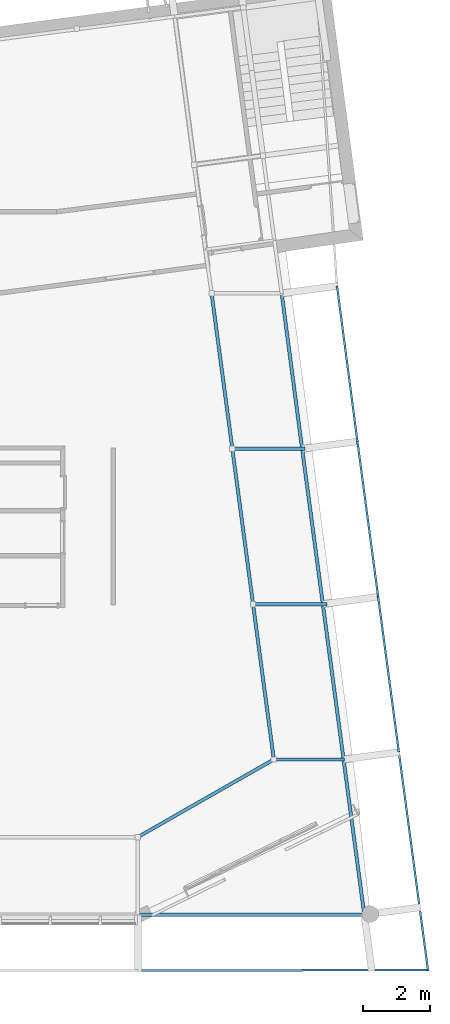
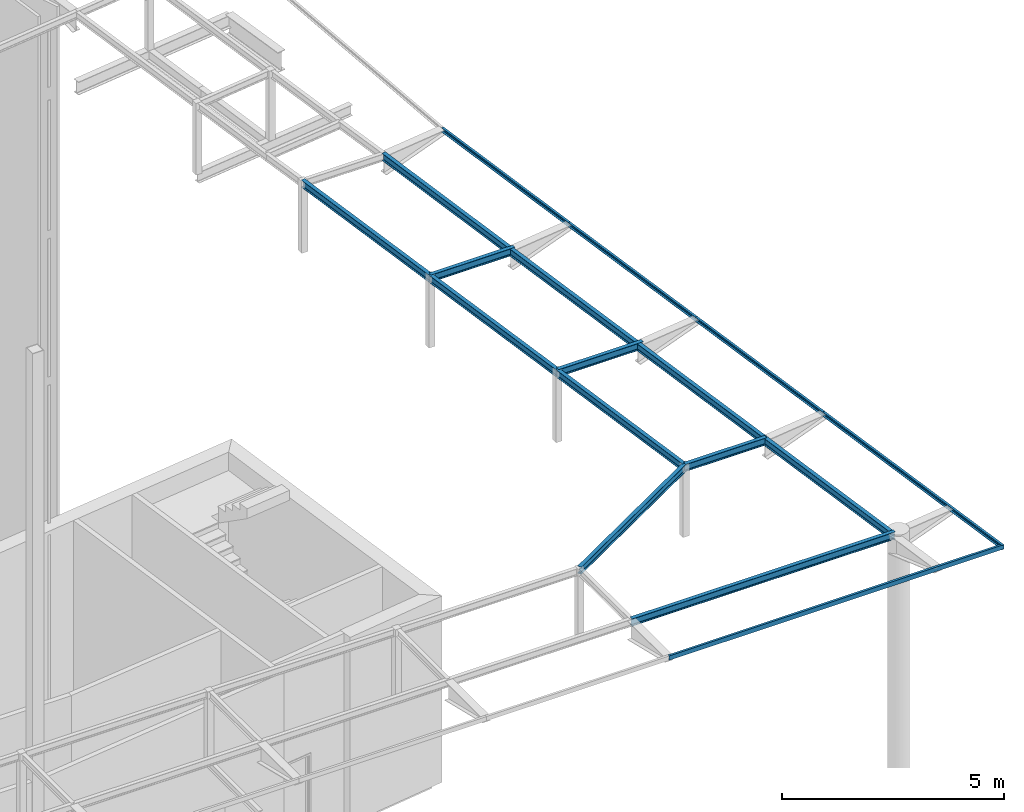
# One storey, part 16 of 40: 17 beams.
"""IFC2X3 building model written with IfcOpenShell, lengths in metres."""

from ifc_helpers import new_model, entity, si_unit, converted_unit, money_unit, point, direction, frame, frame_2d, origin_with_axes, place, context, subcontext, project, spatial, polyline, circle_curve, parameter, trimmed, segment, composite_curve, outline, extrude, material, type_object, element, save


model = new_model("IFC2X3")

# Units and contexts
model_context = context("Model", 3, precision=1e-05, world=origin_with_axes(), true_north=direction((0.0, 1.0)))
body_context = subcontext(model_context, "Body", "Model", "MODEL_VIEW")
ifc_project = project(units=[si_unit("LENGTHUNIT", "METRE"), si_unit("AREAUNIT", "SQUARE_METRE"), si_unit("VOLUMEUNIT", "CUBIC_METRE"), converted_unit("PLANEANGLEUNIT", "DEGREE", entity("IfcPlaneAngleMeasure", 0.0174532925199), si_unit("PLANEANGLEUNIT", "RADIAN"), dimensions=[0, 0, 0, 0, 0, 0, 0]), si_unit("SOLIDANGLEUNIT", "STERADIAN"), money_unit("EUR"), converted_unit("TIMEUNIT", "Year", entity("IfcTimeMeasure", 31556926.0), si_unit("TIMEUNIT", "SECOND"), dimensions=[0, 0, 0, 0, 0, 0, 0]), si_unit("MASSUNIT", "GRAM"), si_unit("THERMODYNAMICTEMPERATUREUNIT", "DEGREE_CELSIUS"), si_unit("LUMINOUSINTENSITYUNIT", "LUMEN")], contexts=[model_context])

# Site, building, storey
site_placement = place(None, origin_with_axes())
site = spatial("IfcSite", under=ifc_project, at=site_placement, Name="Undefined", CompositionType="ELEMENT")
building_placement = place(site_placement, origin_with_axes())
building = spatial("IfcBuilding", under=site, at=building_placement, Name="Undefined", CompositionType="ELEMENT")
storey_placement = place(building_placement, origin_with_axes())
storey = spatial("IfcBuildingStorey", under=building, at=storey_placement, Name="Rez de chauss\x8ee", CompositionType="ELEMENT", Elevation=0.0)

# Beams
ifc_material = material(Name="STEEL/S235JRG2 3386696625")
beam_type_1 = type_object("IfcBeamType", Name="IPE200", PredefinedType="NOTDEFINED")
beam_1_placement = place(storey_placement, frame((65.9105599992, 18.6012900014, 19.025), z_axis=(0.0, 0.0, 1.0), x_axis=(-0.991488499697, -0.13019429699, 0.0)))
element("IfcBeam", 1, at=beam_1_placement, inside=storey, type_object=beam_type_1, material=ifc_material, Name="Poutre", ObjectType="BEAM", context=body_context, shape_type="SweptSolid", body=[
    extrude(outline(composite_curve([segment(polyline([(0.05, -0.1), (0.05, -0.0915), (0.0147999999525, -0.0915)]), True, "CONTINUOUS"), segment(trimmed(circle_curve(frame_2d((0.0147999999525, -0.0795), x_axis=(-1.0, 0.0)), 0.012), [point((0.0147999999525, -0.0915)), parameter(90.0)], [point((0.0027999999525, -0.0795)), parameter(0.0)], False, "CARTESIAN"), True, "CONTINUOUS"), segment(polyline([(0.0027999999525, -0.0795), (0.0027999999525, 0.0795)]), True, "CONTINUOUS"), segment(trimmed(circle_curve(frame_2d((0.0147999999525, 0.0795), x_axis=(0.0, 1.0)), 0.012), [point((0.0027999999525, 0.0795)), parameter(90.0)], [point((0.0147999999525, 0.0915)), parameter(0.0)], False, "CARTESIAN"), True, "CONTINUOUS"), segment(polyline([(0.0147999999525, 0.0915), (0.05, 0.0915), (0.05, 0.1), (-0.05, 0.1), (-0.05, 0.0915), (-0.0147999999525, 0.0915)]), True, "CONTINUOUS"), segment(trimmed(circle_curve(frame_2d((-0.0147999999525, 0.0795), x_axis=(1.0, 0.0)), 0.012), [point((-0.0147999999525, 0.0915)), parameter(90.0)], [point((-0.0027999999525, 0.0795)), parameter(0.0)], False, "CARTESIAN"), True, "CONTINUOUS"), segment(polyline([(-0.0027999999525, 0.0795), (-0.0027999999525, -0.0795)]), True, "CONTINUOUS"), segment(trimmed(circle_curve(frame_2d((-0.0147999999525, -0.0795), x_axis=(0.0, -1.0)), 0.012), [point((-0.0027999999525, -0.0795)), parameter(90.0)], [point((-0.0147999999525, -0.0915)), parameter(0.0)], False, "CARTESIAN"), True, "CONTINUOUS"), segment(polyline([(-0.0147999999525, -0.0915), (-0.05, -0.0915), (-0.05, -0.1), (0.05, -0.1)]), True, "CONTINUOUS")], self_intersect=False)), frame((0.0, 4.69121931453, 0.0), z_axis=(0.0, -1.0, 0.0), x_axis=(1.0, 0.0, 0.0)), (0.0, 0.0, 1.0), 4.69121931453),
])
for number, where, z_axis, x_axis, name in (
    (2, (66.5213299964, 13.9500000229, 19.025), (0.0, 0.0, 1.0), (-0.991215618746, -0.132255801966, 0.0), "Poutre"),
    (3, (67.1417699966, 9.3000000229, 19.025), (0.0, 0.0, 1.0), (-0.991215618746, -0.132255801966, 0.0), "Poutre"),
):
    element("IfcBeam", number, at=place(storey_placement, frame(where, z_axis=z_axis, x_axis=x_axis)), inside=storey, type_object=beam_type_1, material=ifc_material, Name=name, ObjectType="BEAM", context=body_context, shape_type="SweptSolid", body=[
        extrude(outline(composite_curve([segment(polyline([(0.05, -0.1), (0.05, -0.0915), (0.0147999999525, -0.0915)]), True, "CONTINUOUS"), segment(trimmed(circle_curve(frame_2d((0.0147999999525, -0.0795), x_axis=(-1.0, 0.0)), 0.012), [point((0.0147999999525, -0.0915)), parameter(90.0)], [point((0.0027999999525, -0.0795)), parameter(0.0)], False, "CARTESIAN"), True, "CONTINUOUS"), segment(polyline([(0.0027999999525, -0.0795), (0.0027999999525, 0.0795)]), True, "CONTINUOUS"), segment(trimmed(circle_curve(frame_2d((0.0147999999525, 0.0795), x_axis=(0.0, 1.0)), 0.012), [point((0.0027999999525, 0.0795)), parameter(90.0)], [point((0.0147999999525, 0.0915)), parameter(0.0)], False, "CARTESIAN"), True, "CONTINUOUS"), segment(polyline([(0.0147999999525, 0.0915), (0.05, 0.0915), (0.05, 0.1), (-0.05, 0.1), (-0.05, 0.0915), (-0.0147999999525, 0.0915)]), True, "CONTINUOUS"), segment(trimmed(circle_curve(frame_2d((-0.0147999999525, 0.0795), x_axis=(1.0, 0.0)), 0.012), [point((-0.0147999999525, 0.0915)), parameter(90.0)], [point((-0.0027999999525, 0.0795)), parameter(0.0)], False, "CARTESIAN"), True, "CONTINUOUS"), segment(polyline([(-0.0027999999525, 0.0795), (-0.0027999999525, -0.0795)]), True, "CONTINUOUS"), segment(trimmed(circle_curve(frame_2d((-0.0147999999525, -0.0795), x_axis=(0.0, -1.0)), 0.012), [point((-0.0027999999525, -0.0795)), parameter(90.0)], [point((-0.0147999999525, -0.0915)), parameter(0.0)], False, "CARTESIAN"), True, "CONTINUOUS"), segment(polyline([(-0.0147999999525, -0.0915), (-0.05, -0.0915), (-0.05, -0.1), (0.05, -0.1)]), True, "CONTINUOUS")], self_intersect=False)), frame((0.0, 4.69120941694, 0.0), z_axis=(0.0, -1.0, 0.0), x_axis=(1.0, 0.0, 0.0)), (0.0, 0.0, 1.0), 4.69120941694),
    ])
beam_2_placement = place(storey_placement, frame((65.0532705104, 9.29999997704, 19.025), z_axis=(0.0, 0.0, 1.0), x_axis=(0.991215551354, 0.132256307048, 0.0)))
element("IfcBeam", 4, at=beam_2_placement, inside=storey, type_object=beam_type_1, material=ifc_material, Name="Poutre", ObjectType="BEAM", context=body_context, shape_type="SweptSolid", body=[
    extrude(outline(composite_curve([segment(polyline([(0.05, -0.1), (0.05, -0.0915), (0.0147999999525, -0.0915)]), True, "CONTINUOUS"), segment(trimmed(circle_curve(frame_2d((0.0147999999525, -0.0795), x_axis=(-1.0, 0.0)), 0.012), [point((0.0147999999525, -0.0915)), parameter(90.0)], [point((0.0027999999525, -0.0795)), parameter(0.0)], False, "CARTESIAN"), True, "CONTINUOUS"), segment(polyline([(0.0027999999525, -0.0795), (0.0027999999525, 0.0795)]), True, "CONTINUOUS"), segment(trimmed(circle_curve(frame_2d((0.0147999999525, 0.0795), x_axis=(0.0, 1.0)), 0.012), [point((0.0027999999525, 0.0795)), parameter(90.0)], [point((0.0147999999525, 0.0915)), parameter(0.0)], False, "CARTESIAN"), True, "CONTINUOUS"), segment(polyline([(0.0147999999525, 0.0915), (0.05, 0.0915), (0.05, 0.1), (-0.05, 0.1), (-0.05, 0.0915), (-0.0147999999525, 0.0915)]), True, "CONTINUOUS"), segment(trimmed(circle_curve(frame_2d((-0.0147999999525, 0.0795), x_axis=(1.0, 0.0)), 0.012), [point((-0.0147999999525, 0.0915)), parameter(90.0)], [point((-0.0027999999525, 0.0795)), parameter(0.0)], False, "CARTESIAN"), True, "CONTINUOUS"), segment(polyline([(-0.0027999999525, 0.0795), (-0.0027999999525, -0.0795)]), True, "CONTINUOUS"), segment(trimmed(circle_curve(frame_2d((-0.0147999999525, -0.0795), x_axis=(0.0, -1.0)), 0.012), [point((-0.0027999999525, -0.0795)), parameter(90.0)], [point((-0.0147999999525, -0.0915)), parameter(0.0)], False, "CARTESIAN"), True, "CONTINUOUS"), segment(polyline([(-0.0147999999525, -0.0915), (-0.05, -0.0915), (-0.05, -0.1), (0.05, -0.1)]), True, "CONTINUOUS")], self_intersect=False)), frame((0.0, 4.69120988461, 0.0), z_axis=(0.0, -1.0, 0.0), x_axis=(1.0, 0.0, 0.0)), (0.0, 0.0, 1.0), 4.69120988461),
])
beam_3_placement = place(storey_placement, frame((65.6737139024, 4.64999987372, 19.025), z_axis=(0.0, 0.0, 1.0), x_axis=(0.991215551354, 0.132256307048, 0.0)))
element("IfcBeam", 5, at=beam_3_placement, inside=storey, type_object=beam_type_1, material=ifc_material, Name="Poutre", ObjectType="BEAM", context=body_context, shape_type="SweptSolid", body=[
    extrude(outline(composite_curve([segment(polyline([(0.05, -0.1), (0.05, -0.0915), (0.0147999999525, -0.0915)]), True, "CONTINUOUS"), segment(trimmed(circle_curve(frame_2d((0.0147999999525, -0.0795), x_axis=(-1.0, 0.0)), 0.012), [point((0.0147999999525, -0.0915)), parameter(90.0)], [point((0.0027999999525, -0.0795)), parameter(0.0)], False, "CARTESIAN"), True, "CONTINUOUS"), segment(polyline([(0.0027999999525, -0.0795), (0.0027999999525, 0.0795)]), True, "CONTINUOUS"), segment(trimmed(circle_curve(frame_2d((0.0147999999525, 0.0795), x_axis=(0.0, 1.0)), 0.012), [point((0.0027999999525, 0.0795)), parameter(90.0)], [point((0.0147999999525, 0.0915)), parameter(0.0)], False, "CARTESIAN"), True, "CONTINUOUS"), segment(polyline([(0.0147999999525, 0.0915), (0.05, 0.0915), (0.05, 0.1), (-0.05, 0.1), (-0.05, 0.0915), (-0.0147999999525, 0.0915)]), True, "CONTINUOUS"), segment(trimmed(circle_curve(frame_2d((-0.0147999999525, 0.0795), x_axis=(1.0, 0.0)), 0.012), [point((-0.0147999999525, 0.0915)), parameter(90.0)], [point((-0.0027999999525, 0.0795)), parameter(0.0)], False, "CARTESIAN"), True, "CONTINUOUS"), segment(polyline([(-0.0027999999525, 0.0795), (-0.0027999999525, -0.0795)]), True, "CONTINUOUS"), segment(trimmed(circle_curve(frame_2d((-0.0147999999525, -0.0795), x_axis=(0.0, -1.0)), 0.012), [point((-0.0027999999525, -0.0795)), parameter(90.0)], [point((-0.0147999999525, -0.0915)), parameter(0.0)], False, "CARTESIAN"), True, "CONTINUOUS"), segment(polyline([(-0.0147999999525, -0.0915), (-0.05, -0.0915), (-0.05, -0.1), (0.05, -0.1)]), True, "CONTINUOUS")], self_intersect=False)), frame((0.0, 4.69120996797, 0.0), z_axis=(0.0, -1.0, 0.0), x_axis=(1.0, 0.0, 0.0)), (0.0, 0.0, 1.0), 4.69120996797),
])
beam_4_placement = place(storey_placement, frame((64.4328269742, 13.949999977, 19.025), z_axis=(0.0, 0.0, 1.0), x_axis=(0.991215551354, 0.132256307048, 0.0)))
element("IfcBeam", 6, at=beam_4_placement, inside=storey, type_object=beam_type_1, material=ifc_material, Name="Poutre", ObjectType="BEAM", context=body_context, shape_type="SweptSolid", body=[
    extrude(outline(composite_curve([segment(polyline([(0.05, -0.1), (0.05, -0.0915), (0.0147999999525, -0.0915)]), True, "CONTINUOUS"), segment(trimmed(circle_curve(frame_2d((0.0147999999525, -0.0795), x_axis=(-1.0, 0.0)), 0.012), [point((0.0147999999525, -0.0915)), parameter(90.0)], [point((0.0027999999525, -0.0795)), parameter(0.0)], False, "CARTESIAN"), True, "CONTINUOUS"), segment(polyline([(0.0027999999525, -0.0795), (0.0027999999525, 0.0795)]), True, "CONTINUOUS"), segment(trimmed(circle_curve(frame_2d((0.0147999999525, 0.0795), x_axis=(0.0, 1.0)), 0.012), [point((0.0027999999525, 0.0795)), parameter(90.0)], [point((0.0147999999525, 0.0915)), parameter(0.0)], False, "CARTESIAN"), True, "CONTINUOUS"), segment(polyline([(0.0147999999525, 0.0915), (0.05, 0.0915), (0.05, 0.1), (-0.05, 0.1), (-0.05, 0.0915), (-0.0147999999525, 0.0915)]), True, "CONTINUOUS"), segment(trimmed(circle_curve(frame_2d((-0.0147999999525, 0.0795), x_axis=(1.0, 0.0)), 0.012), [point((-0.0147999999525, 0.0915)), parameter(90.0)], [point((-0.0027999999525, 0.0795)), parameter(0.0)], False, "CARTESIAN"), True, "CONTINUOUS"), segment(polyline([(-0.0027999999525, 0.0795), (-0.0027999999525, -0.0795)]), True, "CONTINUOUS"), segment(trimmed(circle_curve(frame_2d((-0.0147999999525, -0.0795), x_axis=(0.0, -1.0)), 0.012), [point((-0.0027999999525, -0.0795)), parameter(90.0)], [point((-0.0147999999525, -0.0915)), parameter(0.0)], False, "CARTESIAN"), True, "CONTINUOUS"), segment(polyline([(-0.0147999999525, -0.0915), (-0.05, -0.0915), (-0.05, -0.1), (0.05, -0.1)]), True, "CONTINUOUS")], self_intersect=False)), frame((0.0, 4.69220939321, 0.0), z_axis=(0.0, -1.0, 0.0), x_axis=(1.0, 0.0, 0.0)), (0.0, 0.0, 1.0), 4.69220939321),
])
beam_5_placement = place(storey_placement, frame((65.6737139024, 4.64999987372, 19.025), z_axis=(0.0, 0.0, 1.0), x_axis=(0.0, -1.0, 0.0)))
element("IfcBeam", 7, at=beam_5_placement, inside=storey, type_object=beam_type_1, material=ifc_material, Name="Poutre", ObjectType="BEAM", context=body_context, shape_type="SweptSolid", body=[
    extrude(outline(composite_curve([segment(polyline([(0.05, -0.1), (0.05, -0.0915), (0.0147999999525, -0.0915)]), True, "CONTINUOUS"), segment(trimmed(circle_curve(frame_2d((0.0147999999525, -0.0795), x_axis=(-1.0, 0.0)), 0.012), [point((0.0147999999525, -0.0915)), parameter(90.0)], [point((0.0027999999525, -0.0795)), parameter(0.0)], False, "CARTESIAN"), True, "CONTINUOUS"), segment(polyline([(0.0027999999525, -0.0795), (0.0027999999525, 0.0795)]), True, "CONTINUOUS"), segment(trimmed(circle_curve(frame_2d((0.0147999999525, 0.0795), x_axis=(0.0, 1.0)), 0.012), [point((0.0027999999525, 0.0795)), parameter(90.0)], [point((0.0147999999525, 0.0915)), parameter(0.0)], False, "CARTESIAN"), True, "CONTINUOUS"), segment(polyline([(0.0147999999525, 0.0915), (0.05, 0.0915), (0.05, 0.1), (-0.05, 0.1), (-0.05, 0.0915), (-0.0147999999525, 0.0915)]), True, "CONTINUOUS"), segment(trimmed(circle_curve(frame_2d((-0.0147999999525, 0.0795), x_axis=(1.0, 0.0)), 0.012), [point((-0.0147999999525, 0.0915)), parameter(90.0)], [point((-0.0027999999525, 0.0795)), parameter(0.0)], False, "CARTESIAN"), True, "CONTINUOUS"), segment(polyline([(-0.0027999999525, 0.0795), (-0.0027999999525, -0.0795)]), True, "CONTINUOUS"), segment(trimmed(circle_curve(frame_2d((-0.0147999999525, -0.0795), x_axis=(0.0, -1.0)), 0.012), [point((-0.0027999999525, -0.0795)), parameter(90.0)], [point((-0.0147999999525, -0.0915)), parameter(0.0)], False, "CARTESIAN"), True, "CONTINUOUS"), segment(polyline([(-0.0147999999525, -0.0915), (-0.05, -0.0915), (-0.05, -0.1), (0.05, -0.1)]), True, "CONTINUOUS")], self_intersect=False)), frame((0.0, 2.11397689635, 0.0), z_axis=(0.0, -1.0, 0.0), x_axis=(1.0, 0.0, 0.0)), (0.0, 0.0, 1.0), 2.11397689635),
])
beam_6_placement = place(storey_placement, frame((64.4328269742, 13.949999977, 19.025), z_axis=(0.0, 0.0, 1.0), x_axis=(0.0, -1.0, 0.0)))
element("IfcBeam", 8, at=beam_6_placement, inside=storey, type_object=beam_type_1, material=ifc_material, Name="Poutre", ObjectType="BEAM", context=body_context, shape_type="SweptSolid", body=[
    extrude(outline(composite_curve([segment(polyline([(0.05, -0.1), (0.05, -0.0915), (0.0147999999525, -0.0915)]), True, "CONTINUOUS"), segment(trimmed(circle_curve(frame_2d((0.0147999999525, -0.0795), x_axis=(-1.0, 0.0)), 0.012), [point((0.0147999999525, -0.0915)), parameter(90.0)], [point((0.0027999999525, -0.0795)), parameter(0.0)], False, "CARTESIAN"), True, "CONTINUOUS"), segment(polyline([(0.0027999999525, -0.0795), (0.0027999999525, 0.0795)]), True, "CONTINUOUS"), segment(trimmed(circle_curve(frame_2d((0.0147999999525, 0.0795), x_axis=(0.0, 1.0)), 0.012), [point((0.0027999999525, 0.0795)), parameter(90.0)], [point((0.0147999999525, 0.0915)), parameter(0.0)], False, "CARTESIAN"), True, "CONTINUOUS"), segment(polyline([(0.0147999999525, 0.0915), (0.05, 0.0915), (0.05, 0.1), (-0.05, 0.1), (-0.05, 0.0915), (-0.0147999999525, 0.0915)]), True, "CONTINUOUS"), segment(trimmed(circle_curve(frame_2d((-0.0147999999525, 0.0795), x_axis=(1.0, 0.0)), 0.012), [point((-0.0147999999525, 0.0915)), parameter(90.0)], [point((-0.0027999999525, 0.0795)), parameter(0.0)], False, "CARTESIAN"), True, "CONTINUOUS"), segment(polyline([(-0.0027999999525, 0.0795), (-0.0027999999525, -0.0795)]), True, "CONTINUOUS"), segment(trimmed(circle_curve(frame_2d((-0.0147999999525, -0.0795), x_axis=(0.0, -1.0)), 0.012), [point((-0.0027999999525, -0.0795)), parameter(90.0)], [point((-0.0147999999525, -0.0915)), parameter(0.0)], False, "CARTESIAN"), True, "CONTINUOUS"), segment(polyline([(-0.0147999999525, -0.0915), (-0.05, -0.0915), (-0.05, -0.1), (0.05, -0.1)]), True, "CONTINUOUS")], self_intersect=False)), frame((0.0, 2.17911758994, 0.0), z_axis=(0.0, -1.0, 0.0), x_axis=(1.0, 0.0, 0.0)), (0.0, 0.0, 1.0), 2.17911758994),
])
beam_7_placement = place(storey_placement, frame((65.0532705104, 9.29999997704, 19.025), z_axis=(0.0, 0.0, 1.0), x_axis=(0.0, -1.0, 0.0)))
element("IfcBeam", 9, at=beam_7_placement, inside=storey, type_object=beam_type_1, material=ifc_material, Name="Poutre", ObjectType="BEAM", context=body_context, shape_type="SweptSolid", body=[
    extrude(outline(composite_curve([segment(polyline([(0.05, -0.1), (0.05, -0.0915), (0.0147999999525, -0.0915)]), True, "CONTINUOUS"), segment(trimmed(circle_curve(frame_2d((0.0147999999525, -0.0795), x_axis=(-1.0, 0.0)), 0.012), [point((0.0147999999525, -0.0915)), parameter(90.0)], [point((0.0027999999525, -0.0795)), parameter(0.0)], False, "CARTESIAN"), True, "CONTINUOUS"), segment(polyline([(0.0027999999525, -0.0795), (0.0027999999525, 0.0795)]), True, "CONTINUOUS"), segment(trimmed(circle_curve(frame_2d((0.0147999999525, 0.0795), x_axis=(0.0, 1.0)), 0.012), [point((0.0027999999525, 0.0795)), parameter(90.0)], [point((0.0147999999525, 0.0915)), parameter(0.0)], False, "CARTESIAN"), True, "CONTINUOUS"), segment(polyline([(0.0147999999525, 0.0915), (0.05, 0.0915), (0.05, 0.1), (-0.05, 0.1), (-0.05, 0.0915), (-0.0147999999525, 0.0915)]), True, "CONTINUOUS"), segment(trimmed(circle_curve(frame_2d((-0.0147999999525, 0.0795), x_axis=(1.0, 0.0)), 0.012), [point((-0.0147999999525, 0.0915)), parameter(90.0)], [point((-0.0027999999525, 0.0795)), parameter(0.0)], False, "CARTESIAN"), True, "CONTINUOUS"), segment(polyline([(-0.0027999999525, 0.0795), (-0.0027999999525, -0.0795)]), True, "CONTINUOUS"), segment(trimmed(circle_curve(frame_2d((-0.0147999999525, -0.0795), x_axis=(0.0, -1.0)), 0.012), [point((-0.0027999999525, -0.0795)), parameter(90.0)], [point((-0.0147999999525, -0.0915)), parameter(0.0)], False, "CARTESIAN"), True, "CONTINUOUS"), segment(polyline([(-0.0147999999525, -0.0915), (-0.05, -0.0915), (-0.05, -0.1), (0.05, -0.1)]), True, "CONTINUOUS")], self_intersect=False)), frame((0.0, 2.21218590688, 0.0), z_axis=(0.0, -1.0, 0.0), x_axis=(1.0, 0.0, 0.0)), (0.0, 0.0, 1.0), 2.21218590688),
])
beam_8_placement = place(storey_placement, frame((61.5999999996, 2.32500000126, 19.025), z_axis=(0.0, 0.0, 1.0), x_axis=(0.495682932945, -0.868503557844, 0.0)))
element("IfcBeam", 10, at=beam_8_placement, inside=storey, type_object=beam_type_1, material=ifc_material, Name="Poutre", ObjectType="BEAM", context=body_context, shape_type="SweptSolid", body=[
    extrude(outline(composite_curve([segment(polyline([(0.05, -0.1), (0.05, -0.0915), (0.0147999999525, -0.0915)]), True, "CONTINUOUS"), segment(trimmed(circle_curve(frame_2d((0.0147999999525, -0.0795), x_axis=(-1.0, 0.0)), 0.012), [point((0.0147999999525, -0.0915)), parameter(90.0)], [point((0.0027999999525, -0.0795)), parameter(0.0)], False, "CARTESIAN"), True, "CONTINUOUS"), segment(polyline([(0.0027999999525, -0.0795), (0.0027999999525, 0.0795)]), True, "CONTINUOUS"), segment(trimmed(circle_curve(frame_2d((0.0147999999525, 0.0795), x_axis=(0.0, 1.0)), 0.012), [point((0.0027999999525, 0.0795)), parameter(90.0)], [point((0.0147999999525, 0.0915)), parameter(0.0)], False, "CARTESIAN"), True, "CONTINUOUS"), segment(polyline([(0.0147999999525, 0.0915), (0.05, 0.0915), (0.05, 0.1), (-0.05, 0.1), (-0.05, 0.0915), (-0.0147999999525, 0.0915)]), True, "CONTINUOUS"), segment(trimmed(circle_curve(frame_2d((-0.0147999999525, 0.0795), x_axis=(1.0, 0.0)), 0.012), [point((-0.0147999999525, 0.0915)), parameter(90.0)], [point((-0.0027999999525, 0.0795)), parameter(0.0)], False, "CARTESIAN"), True, "CONTINUOUS"), segment(polyline([(-0.0027999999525, 0.0795), (-0.0027999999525, -0.0795)]), True, "CONTINUOUS"), segment(trimmed(circle_curve(frame_2d((-0.0147999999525, -0.0795), x_axis=(0.0, -1.0)), 0.012), [point((-0.0027999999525, -0.0795)), parameter(90.0)], [point((-0.0147999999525, -0.0915)), parameter(0.0)], False, "CARTESIAN"), True, "CONTINUOUS"), segment(polyline([(-0.0147999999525, -0.0915), (-0.05, -0.0915), (-0.05, -0.1), (0.05, -0.1)]), True, "CONTINUOUS")], self_intersect=False)), frame((0.0, 4.69049777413, 0.0), z_axis=(0.0, -1.0, 0.0), x_axis=(1.0, 0.0, 0.0)), (0.0, 0.0, 1.0), 4.69049777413),
])
beam_9_placement = place(storey_placement, frame((68.3826500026, -2.00193710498e-08, 19.025), z_axis=(0.0, 0.0, 1.0), x_axis=(0.991215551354, 0.132256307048, 0.0)))
element("IfcBeam", 11, at=beam_9_placement, inside=storey, type_object=beam_type_1, material=ifc_material, Name="Poutre", ObjectType="BEAM", context=body_context, shape_type="SweptSolid", body=[
    extrude(outline(composite_curve([segment(polyline([(0.05, -0.1), (0.05, -0.0915), (0.0147999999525, -0.0915)]), True, "CONTINUOUS"), segment(trimmed(circle_curve(frame_2d((0.0147999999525, -0.0795), x_axis=(-1.0, 0.0)), 0.012), [point((0.0147999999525, -0.0915)), parameter(90.0)], [point((0.0027999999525, -0.0795)), parameter(0.0)], False, "CARTESIAN"), True, "CONTINUOUS"), segment(polyline([(0.0027999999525, -0.0795), (0.0027999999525, 0.0795)]), True, "CONTINUOUS"), segment(trimmed(circle_curve(frame_2d((0.0147999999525, 0.0795), x_axis=(0.0, 1.0)), 0.012), [point((0.0027999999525, 0.0795)), parameter(90.0)], [point((0.0147999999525, 0.0915)), parameter(0.0)], False, "CARTESIAN"), True, "CONTINUOUS"), segment(polyline([(0.0147999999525, 0.0915), (0.05, 0.0915), (0.05, 0.1), (-0.05, 0.1), (-0.05, 0.0915), (-0.0147999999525, 0.0915)]), True, "CONTINUOUS"), segment(trimmed(circle_curve(frame_2d((-0.0147999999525, 0.0795), x_axis=(1.0, 0.0)), 0.012), [point((-0.0147999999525, 0.0915)), parameter(90.0)], [point((-0.0027999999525, 0.0795)), parameter(0.0)], False, "CARTESIAN"), True, "CONTINUOUS"), segment(polyline([(-0.0027999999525, 0.0795), (-0.0027999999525, -0.0795)]), True, "CONTINUOUS"), segment(trimmed(circle_curve(frame_2d((-0.0147999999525, -0.0795), x_axis=(0.0, -1.0)), 0.012), [point((-0.0027999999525, -0.0795)), parameter(90.0)], [point((-0.0147999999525, -0.0915)), parameter(0.0)], False, "CARTESIAN"), True, "CONTINUOUS"), segment(polyline([(-0.0147999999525, -0.0915), (-0.05, -0.0915), (-0.05, -0.1), (0.05, -0.1)]), True, "CONTINUOUS")], self_intersect=False)), frame((0.0, 4.69120941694, 0.0), z_axis=(0.0, -1.0, 0.0), x_axis=(1.0, 0.0, 0.0)), (0.0, 0.0, 1.0), 4.69120941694),
])
beam_10_placement = place(storey_placement, frame((61.5999995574, 1.26077137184e-09, 19.02503), z_axis=(0.0, 0.0, 1.0), x_axis=(0.0, -1.0, 0.0)))
element("IfcBeam", 12, at=beam_10_placement, inside=storey, type_object=beam_type_1, material=ifc_material, Name="BEAM", ObjectType="BEAM", context=body_context, shape_type="SweptSolid", body=[
    extrude(outline(composite_curve([segment(polyline([(0.05, -0.1), (0.05, -0.0915), (0.0147999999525, -0.0915)]), True, "CONTINUOUS"), segment(trimmed(circle_curve(frame_2d((0.0147999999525, -0.0795), x_axis=(-1.0, 0.0)), 0.012), [point((0.0147999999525, -0.0915)), parameter(90.0)], [point((0.0027999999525, -0.0795)), parameter(0.0)], False, "CARTESIAN"), True, "CONTINUOUS"), segment(polyline([(0.0027999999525, -0.0795), (0.0027999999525, 0.0795)]), True, "CONTINUOUS"), segment(trimmed(circle_curve(frame_2d((0.0147999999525, 0.0795), x_axis=(0.0, 1.0)), 0.012), [point((0.0027999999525, 0.0795)), parameter(90.0)], [point((0.0147999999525, 0.0915)), parameter(0.0)], False, "CARTESIAN"), True, "CONTINUOUS"), segment(polyline([(0.0147999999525, 0.0915), (0.05, 0.0915), (0.05, 0.1), (-0.05, 0.1), (-0.05, 0.0915), (-0.0147999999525, 0.0915)]), True, "CONTINUOUS"), segment(trimmed(circle_curve(frame_2d((-0.0147999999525, 0.0795), x_axis=(1.0, 0.0)), 0.012), [point((-0.0147999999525, 0.0915)), parameter(90.0)], [point((-0.0027999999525, 0.0795)), parameter(0.0)], False, "CARTESIAN"), True, "CONTINUOUS"), segment(polyline([(-0.0027999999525, 0.0795), (-0.0027999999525, -0.0795)]), True, "CONTINUOUS"), segment(trimmed(circle_curve(frame_2d((-0.0147999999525, -0.0795), x_axis=(0.0, -1.0)), 0.012), [point((-0.0027999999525, -0.0795)), parameter(90.0)], [point((-0.0147999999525, -0.0915)), parameter(0.0)], False, "CARTESIAN"), True, "CONTINUOUS"), segment(polyline([(-0.0147999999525, -0.0915), (-0.05, -0.0915), (-0.05, -0.1), (0.05, -0.1)]), True, "CONTINUOUS")], self_intersect=False)), frame((0.0, 6.84121020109, 0.0), z_axis=(0.0, -1.0, 0.0), x_axis=(1.0, 0.0, 0.0)), (0.0, 0.0, 1.0), 6.84121020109),
])
beam_type_2 = type_object("IfcBeamType", Name="UPE120", PredefinedType="NOTDEFINED")
beam_11_placement = place(storey_placement, frame((67.5658817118, 18.8222204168, 19.045), z_axis=(0.0, 0.0, 1.0), x_axis=(-0.991488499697, -0.13019429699, 0.0)))
element("IfcBeam", 13, at=beam_11_placement, inside=storey, type_object=beam_type_2, material=ifc_material, Name="Poutre", ObjectType="BEAM", context=body_context, shape_type="SweptSolid", body=[
    extrude(outline(composite_curve([segment(polyline([(-0.03, -0.06), (0.03, -0.06), (0.03, -0.052), (-0.013, -0.052)]), True, "CONTINUOUS"), segment(trimmed(circle_curve(frame_2d((-0.013, -0.04), x_axis=(-1.0, 0.0)), 0.012), [point((-0.013, -0.052)), parameter(90.0)], [point((-0.025, -0.04)), parameter(0.0)], False, "CARTESIAN"), True, "CONTINUOUS"), segment(polyline([(-0.025, -0.04), (-0.025, 0.04)]), True, "CONTINUOUS"), segment(trimmed(circle_curve(frame_2d((-0.013, 0.04), x_axis=(0.0, 1.0)), 0.012), [point((-0.025, 0.04)), parameter(90.0)], [point((-0.013, 0.052)), parameter(0.0)], False, "CARTESIAN"), True, "CONTINUOUS"), segment(polyline([(-0.013, 0.052), (0.03, 0.052), (0.03, 0.06), (-0.03, 0.06), (-0.03, -0.06)]), True, "CONTINUOUS")], self_intersect=False)), frame((0.0, 4.69121931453, 0.0), z_axis=(0.0, -1.0, 0.0), x_axis=(1.0, 0.0, 0.0)), (0.0, 0.0, 1.0), 4.69121931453),
])
beam_12_placement = place(storey_placement, frame((68.1766598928, 14.1708686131, 19.045), z_axis=(0.0, 0.0, 1.0), x_axis=(-0.991215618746, -0.132255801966, 0.0)))
element("IfcBeam", 14, at=beam_12_placement, inside=storey, type_object=beam_type_2, material=ifc_material, Name="Poutre", ObjectType="BEAM", context=body_context, shape_type="SweptSolid", body=[
    extrude(outline(composite_curve([segment(polyline([(-0.03, -0.06), (0.03, -0.06), (0.03, -0.052), (-0.013, -0.052)]), True, "CONTINUOUS"), segment(trimmed(circle_curve(frame_2d((-0.013, -0.04), x_axis=(-1.0, 0.0)), 0.012), [point((-0.013, -0.052)), parameter(90.0)], [point((-0.025, -0.04)), parameter(0.0)], False, "CARTESIAN"), True, "CONTINUOUS"), segment(polyline([(-0.025, -0.04), (-0.025, 0.04)]), True, "CONTINUOUS"), segment(trimmed(circle_curve(frame_2d((-0.013, 0.04), x_axis=(0.0, 1.0)), 0.012), [point((-0.025, 0.04)), parameter(90.0)], [point((-0.013, 0.052)), parameter(0.0)], False, "CARTESIAN"), True, "CONTINUOUS"), segment(polyline([(-0.013, 0.052), (0.03, 0.052), (0.03, 0.06), (-0.03, 0.06), (-0.03, -0.06)]), True, "CONTINUOUS")], self_intersect=False)), frame((0.0, 4.69120943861, 0.0), z_axis=(0.0, -1.0, 0.0), x_axis=(1.0, 0.0, 0.0)), (0.0, 0.0, 1.0), 4.69120943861),
])
beam_13_placement = place(storey_placement, frame((68.7970997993, 9.52086853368, 19.045), z_axis=(0.0, 0.0, 1.0), x_axis=(-0.991215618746, -0.132255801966, 0.0)))
element("IfcBeam", 15, at=beam_13_placement, inside=storey, type_object=beam_type_2, material=ifc_material, Name="Poutre", ObjectType="BEAM", context=body_context, shape_type="SweptSolid", body=[
    extrude(outline(composite_curve([segment(polyline([(-0.03, -0.06), (0.03, -0.06), (0.03, -0.052), (-0.013, -0.052)]), True, "CONTINUOUS"), segment(trimmed(circle_curve(frame_2d((-0.013, -0.04), x_axis=(-1.0, 0.0)), 0.012), [point((-0.013, -0.052)), parameter(90.0)], [point((-0.025, -0.04)), parameter(0.0)], False, "CARTESIAN"), True, "CONTINUOUS"), segment(polyline([(-0.025, -0.04), (-0.025, 0.04)]), True, "CONTINUOUS"), segment(trimmed(circle_curve(frame_2d((-0.013, 0.04), x_axis=(0.0, 1.0)), 0.012), [point((-0.025, 0.04)), parameter(90.0)], [point((-0.013, 0.052)), parameter(0.0)], False, "CARTESIAN"), True, "CONTINUOUS"), segment(polyline([(-0.013, 0.052), (0.03, 0.052), (0.03, 0.06), (-0.03, 0.06), (-0.03, -0.06)]), True, "CONTINUOUS")], self_intersect=False)), frame((0.0, 4.69120939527, 0.0), z_axis=(0.0, -1.0, 0.0), x_axis=(1.0, 0.0, 0.0)), (0.0, 0.0, 1.0), 4.69120939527),
])
beam_14_placement = place(storey_placement, frame((69.4175398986, 4.87086857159, 19.045), z_axis=(0.0, 0.0, 1.0), x_axis=(-0.991215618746, -0.132255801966, 0.0)))
element("IfcBeam", 16, at=beam_14_placement, inside=storey, type_object=beam_type_2, material=ifc_material, Name="Poutre", ObjectType="BEAM", context=body_context, shape_type="SweptSolid", body=[
    extrude(outline(composite_curve([segment(polyline([(-0.03, -0.06), (0.03, -0.06), (0.03, -0.052), (-0.013, -0.052)]), True, "CONTINUOUS"), segment(trimmed(circle_curve(frame_2d((-0.013, -0.04), x_axis=(-1.0, 0.0)), 0.012), [point((-0.013, -0.052)), parameter(90.0)], [point((-0.025, -0.04)), parameter(0.0)], False, "CARTESIAN"), True, "CONTINUOUS"), segment(polyline([(-0.025, -0.04), (-0.025, 0.04)]), True, "CONTINUOUS"), segment(trimmed(circle_curve(frame_2d((-0.013, 0.04), x_axis=(0.0, 1.0)), 0.012), [point((-0.025, 0.04)), parameter(90.0)], [point((-0.013, 0.052)), parameter(0.0)], False, "CARTESIAN"), True, "CONTINUOUS"), segment(polyline([(-0.013, 0.052), (0.03, 0.052), (0.03, 0.06), (-0.03, 0.06), (-0.03, -0.06)]), True, "CONTINUOUS")], self_intersect=False)), frame((0.0, 6.61435538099, 0.0), z_axis=(0.0, -1.0, 0.0), x_axis=(1.0, 0.0, 0.0)), (0.0, 0.0, 1.0), 6.61435538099),
])
beam_15_placement = place(storey_placement, frame((61.6096178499, -1.67000012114, 19.045), z_axis=(0.0, 0.0, 1.0), x_axis=(0.00213305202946, -0.999997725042, 0.0)))
element("IfcBeam", 17, at=beam_15_placement, inside=storey, type_object=beam_type_2, material=ifc_material, Name="Poutre", ObjectType="BEAM", context=body_context, shape_type="SweptSolid", body=[
    extrude(outline(composite_curve([segment(polyline([(-0.03, -0.06), (0.03, -0.06), (0.03, -0.052), (-0.013, -0.052)]), True, "CONTINUOUS"), segment(trimmed(circle_curve(frame_2d((-0.013, -0.04), x_axis=(-1.0, 0.0)), 0.012), [point((-0.013, -0.052)), parameter(90.0)], [point((-0.025, -0.04)), parameter(0.0)], False, "CARTESIAN"), True, "CONTINUOUS"), segment(polyline([(-0.025, -0.04), (-0.025, 0.04)]), True, "CONTINUOUS"), segment(trimmed(circle_curve(frame_2d((-0.013, 0.04), x_axis=(0.0, 1.0)), 0.012), [point((-0.025, 0.04)), parameter(90.0)], [point((-0.013, 0.052)), parameter(0.0)], False, "CARTESIAN"), True, "CONTINUOUS"), segment(polyline([(-0.013, 0.052), (0.03, 0.052), (0.03, 0.06), (-0.03, 0.06), (-0.03, -0.06)]), True, "CONTINUOUS")], self_intersect=False)), frame((0.0, 8.71240174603, 0.0), z_axis=(0.0, -1.0, 0.0), x_axis=(-1.0, 0.0, 0.0)), (0.0, 0.0, 1.0), 8.71240174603),
])

save(model, "model.ifc")
